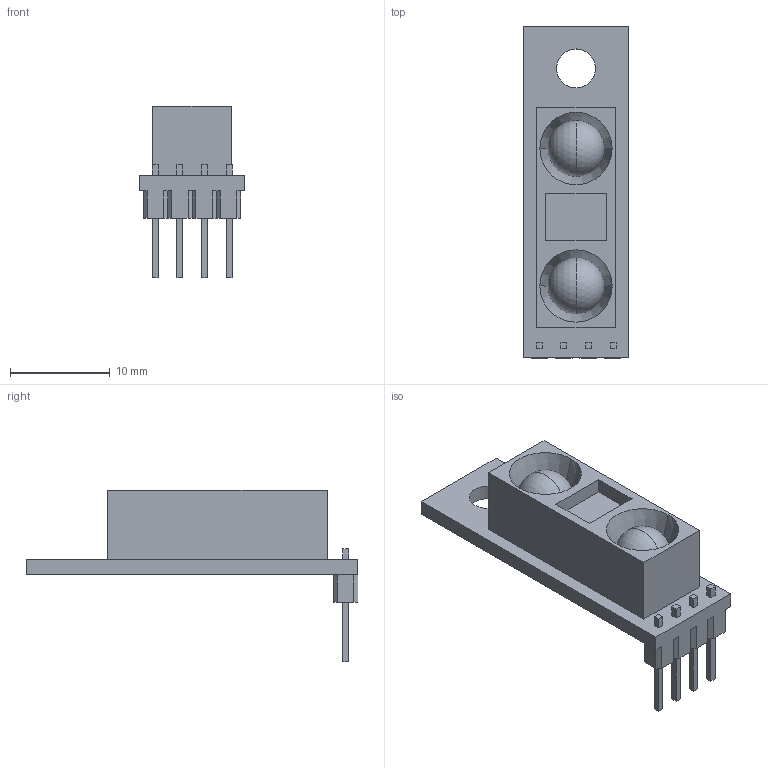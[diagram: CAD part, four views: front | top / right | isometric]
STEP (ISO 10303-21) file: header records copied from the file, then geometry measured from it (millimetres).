
FILE_DESCRIPTION (( 'STEP AP214' ), '1' );
FILE_NAME ('Sharp IR GP2Y0A60SZLF.STEP', '2019-08-02T22:19:07', ( '' ), ( '' ), 'SwSTEP 2.0', 'SolidWorks 2018', '' );
FILE_SCHEMA (( 'AUTOMOTIVE_DESIGN' ));
Length unit declared in the file: millimetre
Products named in the file (1): Sharp IR GP2Y0A60SZLF
Bounding box: 10.59 x 33.2 x 17.15 mm (x, y, z)
Volume: 1651.3 mm3; surface area: 1559.7 mm2
Topology: 1 solids, 1 shells, 92 faces, 240 edges, 158 vertices
Faces by surface type: plane 82, sphere 4, cone 4, cylinder 2
Entity records: 3806 total; most frequent: CARTESIAN_POINT 487, ORIENTED_EDGE 472, DIRECTION 442, EDGE_CURVE 236, LINE 216, VECTOR 216, VERTEX_POINT 158, AXIS2_PLACEMENT_3D 113
